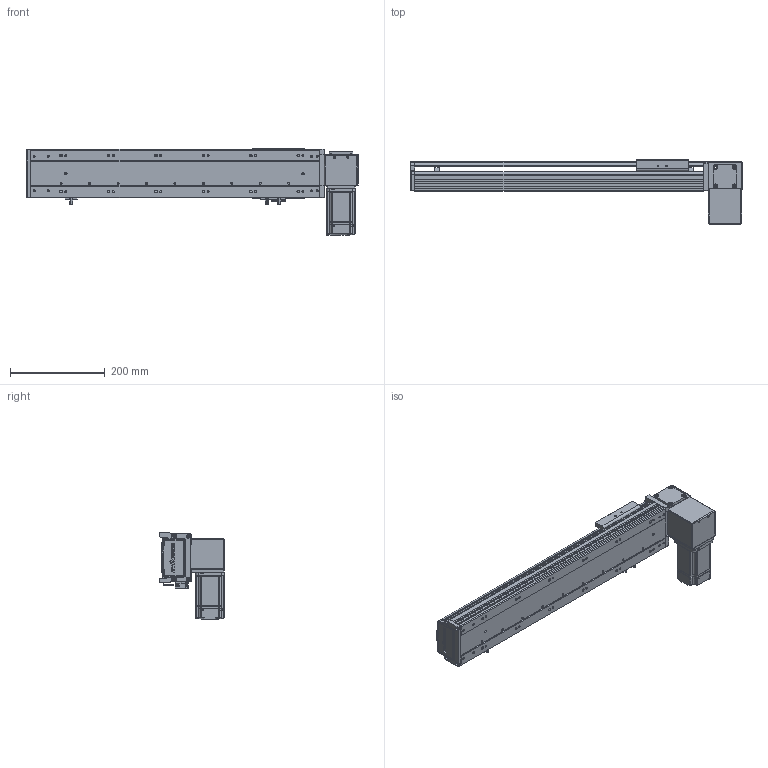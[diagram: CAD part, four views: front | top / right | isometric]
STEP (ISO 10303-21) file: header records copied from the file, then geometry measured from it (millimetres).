
FILE_DESCRIPTION (( 'STEP AP203' ), '1' );
FILE_NAME ('RY100-T-300-DL.SLDASM_400.step', '2024-04-24T01:10:40', ( '盈信电脑' ), ( '东莞市道滘镇水果街19号' ), 'SwSTEP 2.0', 'SolidWorks 2016', '' );
FILE_SCHEMA (( 'CONFIG_CONTROL_DESIGN' ));
Length unit declared in the file: millimetre
Products named in the file (16): RY100-T左右折电机安装板; RY100-T-300-RK倰第菁釱_400; 滅袉蝶18-10; RY100-T-300-DL.SLDASM_400; 1; RY100-T肮祭謫臏賑輸; RY80-T肮祭謫狟殏俋欶; RY100-T翋肮祭謫裔啣2; RY100-T翋肮祭謫裔啣; RY100綴裔啣; RY100-T-300-RK倰第奻裔_400; RY100俋离覜茼え; 覜茼ん672; RY100-T翋肮祭謫粣; RY100-T肮祭謫翋盓傅釱; RY100-T粣創揤踡裔
Assembly tree (18 placements, depth 2):
  RY100-T-300-DL.SLDASM_400
    RY100-T-300-RK倰第菁釱_400
    RY100-T-300-RK倰第奻裔_400
    RY100-T肮祭謫臏賑輸
    RY100綴裔啣
    覜茼ん672  x3
    RY100俋离覜茼え
    RY100-T翋肮祭謫粣
    RY100-T肮祭謫翋盓傅釱
    滅袉蝶18-10  x2
    RY100-T翋肮祭謫裔啣
    1
    RY100-T左右折电机安装板
    RY100-T粣創揤踡裔
    RY100-T翋肮祭謫裔啣2
    RY80-T肮祭謫狟殏俋欶
Bounding box: 700 x 135.5 x 182.5 mm (x, y, z)
Volume: 1683767.4 mm3; surface area: 659846.1 mm2
Topology: 18 solids, 18 shells, 2185 faces, 6036 edges, 3916 vertices
Faces by surface type: plane 1207, cylinder 763, cone 137, bspline 78
Entity records: 69935 total; most frequent: CARTESIAN_POINT 16744, ORIENTED_EDGE 10904, DIRECTION 10408, EDGE_CURVE 5452, VERTEX_POINT 3584, VECTOR 3566, LINE 3566, AXIS2_PLACEMENT_3D 3421
